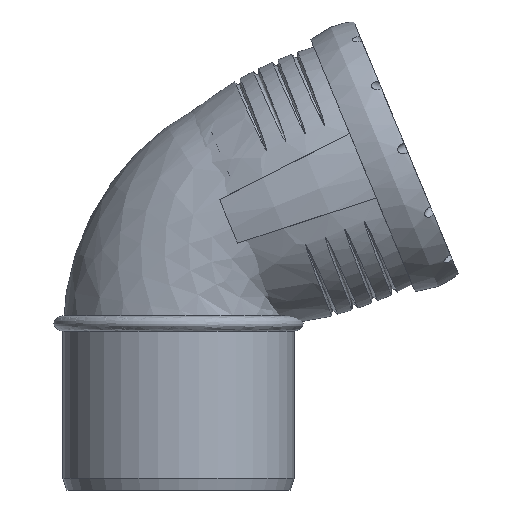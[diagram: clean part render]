
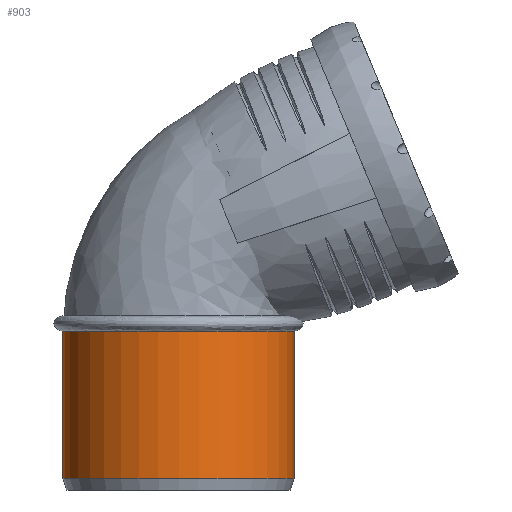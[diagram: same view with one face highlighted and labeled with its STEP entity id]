
A CAD part, front view. The second image highlights one B-rep face of the part: STEP entity #903.
In plain terms, the highlighted cylindrical face has radius 45.1 mm (diameter 90.2 mm), a full revolution.
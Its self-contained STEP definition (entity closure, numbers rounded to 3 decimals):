
#43=FACE_BOUND('',#157,.T.);
#70=CYLINDRICAL_SURFACE('',#970,45.1);
#103=FACE_OUTER_BOUND('',#156,.T.);
#156=EDGE_LOOP('',(#589,#590,#591));
#157=EDGE_LOOP('',(#592));
#242=CIRCLE('',#959,45.1);
#244=CIRCLE('',#962,45.1);
#248=CIRCLE('',#971,45.1);
#249=CIRCLE('',#972,45.1);
#351=VERTEX_POINT('',#1389);
#355=VERTEX_POINT('',#1472);
#356=VERTEX_POINT('',#1480);
#360=VERTEX_POINT('',#1497);
#450=EDGE_CURVE('',#356,#355,#242,.T.);
#453=EDGE_CURVE('',#351,#356,#244,.T.);
#457=EDGE_CURVE('',#355,#351,#248,.T.);
#458=EDGE_CURVE('',#360,#360,#249,.T.);
#589=ORIENTED_EDGE('',*,*,#457,.T.);
#590=ORIENTED_EDGE('',*,*,#453,.T.);
#591=ORIENTED_EDGE('',*,*,#450,.T.);
#592=ORIENTED_EDGE('',*,*,#458,.F.);
#903=ADVANCED_FACE('',(#103,#43),#70,.T.);
#959=AXIS2_PLACEMENT_3D('',#1481,#1055,#1056);
#962=AXIS2_PLACEMENT_3D('',#1485,#1061,#1062);
#970=AXIS2_PLACEMENT_3D('',#1495,#1077,#1078);
#971=AXIS2_PLACEMENT_3D('',#1496,#1079,#1080);
#972=AXIS2_PLACEMENT_3D('',#1498,#1081,#1082);
#1055=DIRECTION('center_axis',(0.,0.,-1.));
#1056=DIRECTION('ref_axis',(1.,0.,0.));
#1061=DIRECTION('center_axis',(0.,0.,-1.));
#1062=DIRECTION('ref_axis',(1.,0.,0.));
#1077=DIRECTION('center_axis',(0.,0.,-1.));
#1078=DIRECTION('ref_axis',(0.,1.,0.));
#1079=DIRECTION('center_axis',(0.,0.,-1.));
#1080=DIRECTION('ref_axis',(1.,0.,0.));
#1081=DIRECTION('center_axis',(0.,0.,-1.));
#1082=DIRECTION('ref_axis',(1.,0.,0.));
#1389=CARTESIAN_POINT('',(0.,-45.1,62.));
#1472=CARTESIAN_POINT('',(0.,45.1,62.));
#1480=CARTESIAN_POINT('',(-45.1,0.,62.));
#1481=CARTESIAN_POINT('Origin',(0.,0.,62.));
#1485=CARTESIAN_POINT('Origin',(0.,0.,62.));
#1495=CARTESIAN_POINT('Origin',(0.,0.,33.25));
#1496=CARTESIAN_POINT('Origin',(0.,0.,62.));
#1497=CARTESIAN_POINT('',(0.,45.1,4.5));
#1498=CARTESIAN_POINT('Origin',(0.,0.,4.5));
